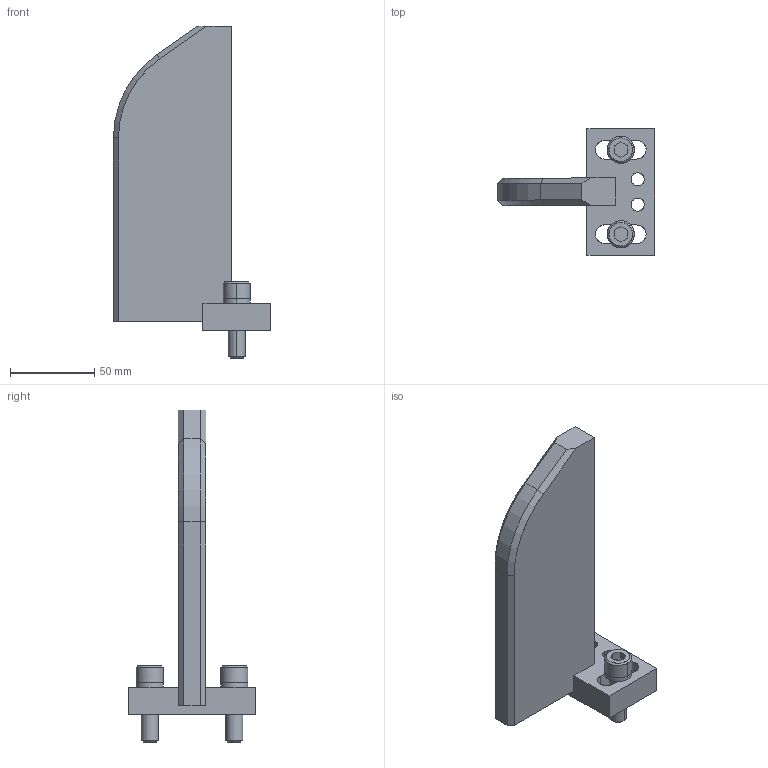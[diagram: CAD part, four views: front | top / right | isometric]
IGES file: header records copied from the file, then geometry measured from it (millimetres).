
Global section: file name: E:\UnigraphicsGraphicData\MISUMI_PRESS-PARTS\IGES\3d_ngwka-180-35-s70-k55-m10_01609_r00.igs; native system: NX V5.0; preprocessor: UGS NX IGES V5.0; author: MISUMI; date: 20110105.162120; units: millimetre
Bounding box: 93 x 75 x 196.5 mm (x, y, z)
Surface area: 46354.9 mm2 (no closed solid volume)
Topology: 0 solids, 0 shells, 104 faces, 666 edges, 666 vertices
Faces by surface type: bspline 104
